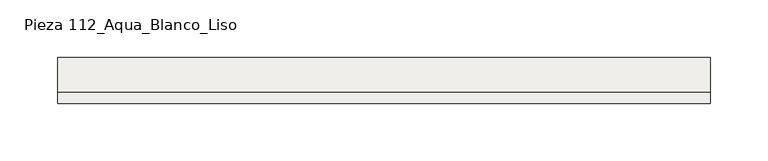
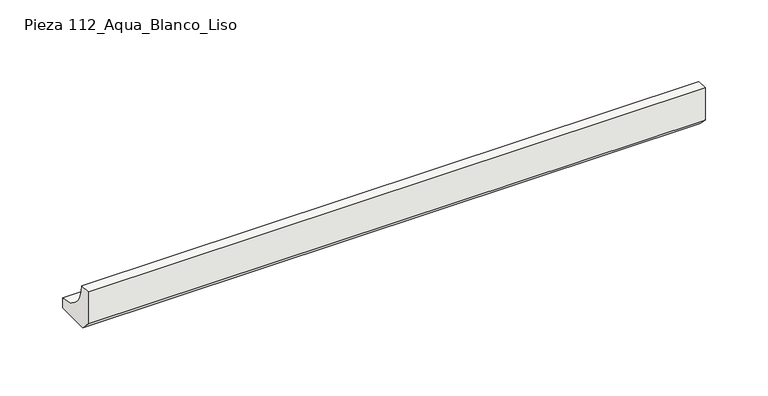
"""IFC4 building model written with IfcOpenShell, lengths in millimetres: slab geometry, ROSA GRES_112 : Pieza 112_Aqua_Blanco_Liso."""

from ifc_helpers import new_model, si_unit, point, frame, frame_2d, origin, place, context, project, spatial, polyline, circle_curve, trimmed, segment, composite_curve, outline, extrude, source, transform, mapped, element, save


def pieza_112_aqua_blanco_liso_8720baa1(model_context):
    return source(origin(), model_context, "Body", "SweptSolid", [
        extrude(outline(composite_curve([segment(polyline([(-9.9734114, 8.7114978), (-9.9734114, 40.0), (0.0, 40.0)]), True, "CONTINUOUS"), segment(trimmed(circle_curve(frame_2d((30.0221432, 39.9955547)), 30.0221435), [point((0.0, 40.0))], [point((30.0265886, 9.9734114))], True, "CARTESIAN"), True, "CONTINUOUS"), segment(polyline([(30.0265886, 9.9734114), (30.0265886, 0.0), (-1.2619137, 0.0), (-9.9734114, 8.7114978)]), True, "CONTINUOUS")], self_intersect=False)), frame((0.0, 0.0, 0.0), z_axis=(1.0, 0.0, 0.0), x_axis=(0.0, 1.0, 0.0)), (0.0, 0.0, 1.0), 566.1645773),
    ])


if __name__ == "__main__":
    model = new_model("IFC4")
    model_context = context("Model", 3, world=origin())
    ifc_project = project(units=[si_unit("LENGTHUNIT", "METRE", prefix="MILLI")], contexts=[model_context])
    site = spatial("IfcSite", under=ifc_project)
    building = spatial("IfcBuilding", under=site)
    placement = place(None, origin())
    pieza_112_aqua_blanco_liso_shape = pieza_112_aqua_blanco_liso_8720baa1(model_context)
    element("IfcSlab", 1, ObjectType="ROSA GRES_112 : Pieza 112_Aqua_Blanco_Liso", at=placement, inside=building, context=model_context, shape_type="MappedRepresentation", body=[
        mapped(pieza_112_aqua_blanco_liso_shape, transform((0.0, 0.0, 0.0), x_axis=(1.0, 0.0, 0.0), y_axis=(0.0, 1.0, 0.0), z_axis=(0.0, 0.0, 1.0))),
    ])
    save(model, "model.ifc")
